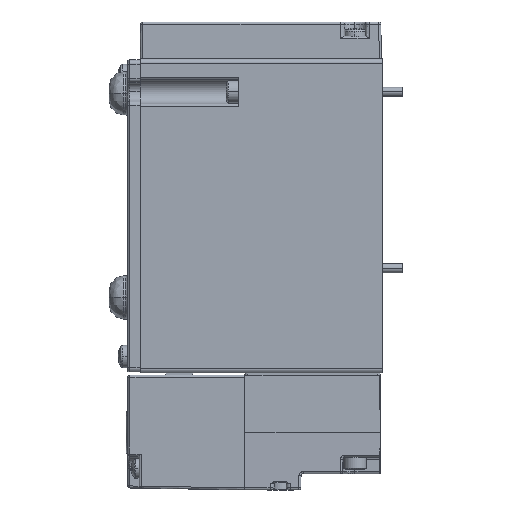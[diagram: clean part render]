
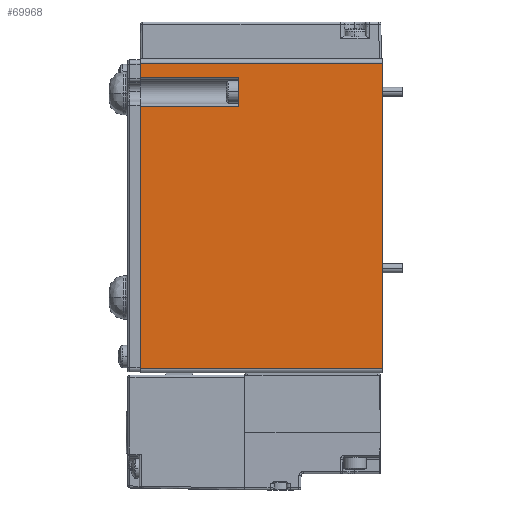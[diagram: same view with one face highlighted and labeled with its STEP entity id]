
A CAD part, left-side view. The second image highlights one B-rep face of the part: STEP entity #69968.
In plain terms, the highlighted planar face has unit normal (-1, 0, 0).
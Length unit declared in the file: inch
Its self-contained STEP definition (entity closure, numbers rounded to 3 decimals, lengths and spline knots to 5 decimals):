
#361 = LINE ( 'NONE', #73882, #51702 ) ;
#3358 = CARTESIAN_POINT ( 'NONE',  ( -0.47244, 2.32283, 1.50591 ) ) ;
#4296 = CARTESIAN_POINT ( 'NONE',  ( -0.47244, 2.32283, 1.50591 ) ) ;
#4901 = CARTESIAN_POINT ( 'NONE',  ( -0.47244, 2.32283, 1.05315 ) ) ;
#6404 = VECTOR ( 'NONE', #75715, 39.37008 ) ;
#9455 = VERTEX_POINT ( 'NONE', #85891 ) ;
#9888 = DIRECTION ( 'NONE',  ( 0., 0., 1. ) ) ;
#10831 = EDGE_CURVE ( 'NONE', #17025, #9455, #29608, .T. ) ;
#15648 = ORIENTED_EDGE ( 'NONE', *, *, #89984, .T. ) ;
#15778 = EDGE_CURVE ( 'NONE', #67917, #68341, #37697, .T. ) ;
#16122 = LINE ( 'NONE', #20469, #89768 ) ;
#17025 = VERTEX_POINT ( 'NONE', #62261 ) ;
#17412 = EDGE_CURVE ( 'NONE', #68341, #25386, #80564, .T. ) ;
#19463 = CARTESIAN_POINT ( 'NONE',  ( -0.47244, 1.37795, 1.32874 ) ) ;
#19896 = EDGE_CURVE ( 'NONE', #9455, #40269, #85000, .T. ) ;
#20469 = CARTESIAN_POINT ( 'NONE',  ( -0.47244, 1.37795, 1.50591 ) ) ;
#21656 = ORIENTED_EDGE ( 'NONE', *, *, #65997, .T. ) ;
#22645 = ORIENTED_EDGE ( 'NONE', *, *, #19896, .T. ) ;
#23254 = EDGE_CURVE ( 'NONE', #82565, #17025, #72441, .T. ) ;
#23608 = VECTOR ( 'NONE', #55101, 39.37008 ) ;
#25151 = CARTESIAN_POINT ( 'NONE',  ( -0.47244, 2.32283, -1.46654 ) ) ;
#25172 = VECTOR ( 'NONE', #55484, 39.37008 ) ;
#25386 = VERTEX_POINT ( 'NONE', #74914 ) ;
#29608 = LINE ( 'NONE', #3358, #39581 ) ;
#32540 = FACE_OUTER_BOUND ( 'NONE', #34083, .T. ) ;
#32749 = CARTESIAN_POINT ( 'NONE',  ( -0.47244, 0., 1.46654 ) ) ;
#32996 = DIRECTION ( 'NONE',  ( 0., 0., -1. ) ) ;
#34083 = EDGE_LOOP ( 'NONE', ( #15648, #21656, #49529, #49258, #60821, #49764, #72343, #22645 ) ) ;
#37697 = LINE ( 'NONE', #4296, #6404 ) ;
#38386 = EDGE_CURVE ( 'NONE', #25386, #82565, #361, .T. ) ;
#38966 = VECTOR ( 'NONE', #54573, 39.37008 ) ;
#39581 = VECTOR ( 'NONE', #32996, 39.37008 ) ;
#40269 = VERTEX_POINT ( 'NONE', #19463 ) ;
#41236 = CARTESIAN_POINT ( 'NONE',  ( -0.47244, 1.37795, 1.05315 ) ) ;
#42183 = CARTESIAN_POINT ( 'NONE',  ( -0.47244, 2.32283, -1.46654 ) ) ;
#42815 = PLANE ( 'NONE',  #53125 ) ;
#46559 = DIRECTION ( 'NONE',  ( -1., 0., 0. ) ) ;
#48464 = DIRECTION ( 'NONE',  ( 0., -1., 0. ) ) ;
#49258 = ORIENTED_EDGE ( 'NONE', *, *, #17412, .T. ) ;
#49529 = ORIENTED_EDGE ( 'NONE', *, *, #15778, .T. ) ;
#49764 = ORIENTED_EDGE ( 'NONE', *, *, #23254, .T. ) ;
#51702 = VECTOR ( 'NONE', #9888, 39.37008 ) ;
#53125 = AXIS2_PLACEMENT_3D ( 'NONE', #87030, #46559, #80484 ) ;
#53644 = CARTESIAN_POINT ( 'NONE',  ( -0.47244, 2.32283, 1.46654 ) ) ;
#54573 = DIRECTION ( 'NONE',  ( 0., 1., 0. ) ) ;
#55101 = DIRECTION ( 'NONE',  ( 0., -1., 0. ) ) ;
#55484 = DIRECTION ( 'NONE',  ( 0., 1., 0. ) ) ;
#60821 = ORIENTED_EDGE ( 'NONE', *, *, #38386, .T. ) ;
#62261 = CARTESIAN_POINT ( 'NONE',  ( -0.47244, 2.32283, 1.46654 ) ) ;
#65997 = EDGE_CURVE ( 'NONE', #81122, #67917, #88889, .T. ) ;
#67917 = VERTEX_POINT ( 'NONE', #70865 ) ;
#68341 = VERTEX_POINT ( 'NONE', #25151 ) ;
#69968 = ADVANCED_FACE ( 'NONE', ( #32540 ), #42815, .T. ) ;
#70865 = CARTESIAN_POINT ( 'NONE',  ( -0.47244, 2.32283, 1.05315 ) ) ;
#72343 = ORIENTED_EDGE ( 'NONE', *, *, #10831, .T. ) ;
#72441 = LINE ( 'NONE', #53644, #38966 ) ;
#73882 = CARTESIAN_POINT ( 'NONE',  ( -0.47244, 0., 1.50591 ) ) ;
#74914 = CARTESIAN_POINT ( 'NONE',  ( -0.47244, 0., -1.46654 ) ) ;
#75715 = DIRECTION ( 'NONE',  ( 0., 0., -1. ) ) ;
#78489 = DIRECTION ( 'NONE',  ( 0., 0., -1. ) ) ;
#79497 = VECTOR ( 'NONE', #48464, 39.37008 ) ;
#80484 = DIRECTION ( 'NONE',  ( 0., -1., 0. ) ) ;
#80564 = LINE ( 'NONE', #42183, #79497 ) ;
#81122 = VERTEX_POINT ( 'NONE', #41236 ) ;
#82565 = VERTEX_POINT ( 'NONE', #32749 ) ;
#85000 = LINE ( 'NONE', #88752, #23608 ) ;
#85891 = CARTESIAN_POINT ( 'NONE',  ( -0.47244, 2.32283, 1.32874 ) ) ;
#87030 = CARTESIAN_POINT ( 'NONE',  ( -0.47244, 2.32283, 1.50591 ) ) ;
#88752 = CARTESIAN_POINT ( 'NONE',  ( -0.47244, 2.32283, 1.32874 ) ) ;
#88889 = LINE ( 'NONE', #4901, #25172 ) ;
#89768 = VECTOR ( 'NONE', #78489, 39.37008 ) ;
#89984 = EDGE_CURVE ( 'NONE', #40269, #81122, #16122, .T. ) ;
